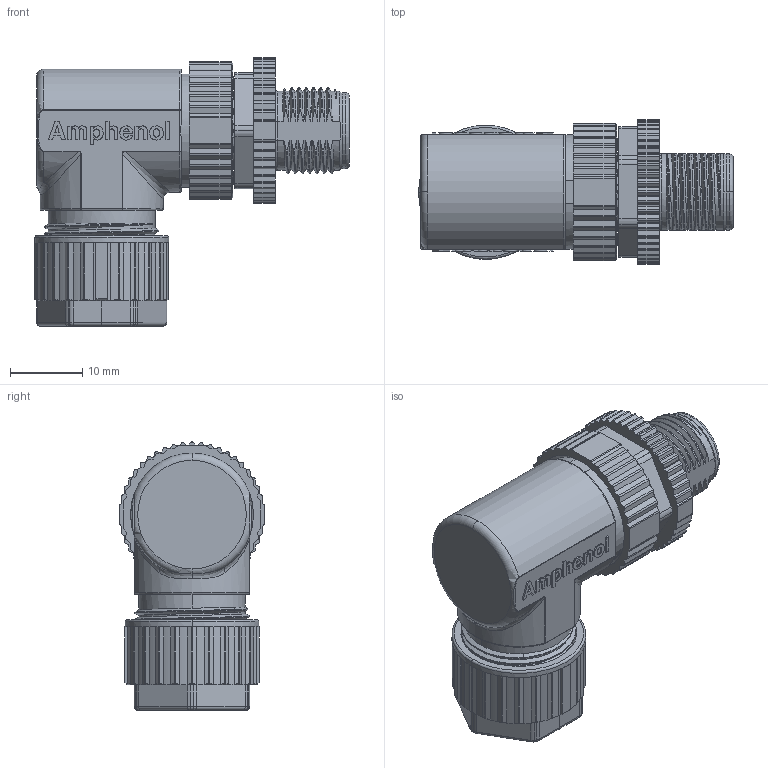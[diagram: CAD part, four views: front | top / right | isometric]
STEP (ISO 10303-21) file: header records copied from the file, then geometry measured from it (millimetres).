
FILE_DESCRIPTION((''),'2;1');
FILE_NAME('M12A-03BMMB-SR7001_SW0001','2015-09-08T',('KS5451'),(''),'PRO/ENGINEER BY PARAMETRIC TECHNOLOGY CORPORATION, 2013050','PRO/ENGINEER BY PARAMETRIC TECHNOLOGY CORPORATION, 2013050','');
FILE_SCHEMA(('CONFIG_CONTROL_DESIGN'));
Length unit declared in the file: millimetre
Products named in the file (1): M12A-03BMMB-SR7001_SW0001
Bounding box: 43.45 x 19.93 x 37.05 mm (x, y, z)
Volume: 8879.8 mm3; surface area: 10843 mm2
Topology: 1 solids, 2 shells, 1739 faces, 4865 edges, 3158 vertices
Faces by surface type: plane 758, cylinder 503, bspline 192, extrusion 128, cone 84, torus 54, sphere 20
Entity records: 136383 total; most frequent: CARTESIAN_POINT 93492, ORIENTED_EDGE 9718, DIRECTION 7767, EDGE_CURVE 4859, VERTEX_POINT 3158, VECTOR 2695, LINE 2567, AXIS2_PLACEMENT_3D 2536
